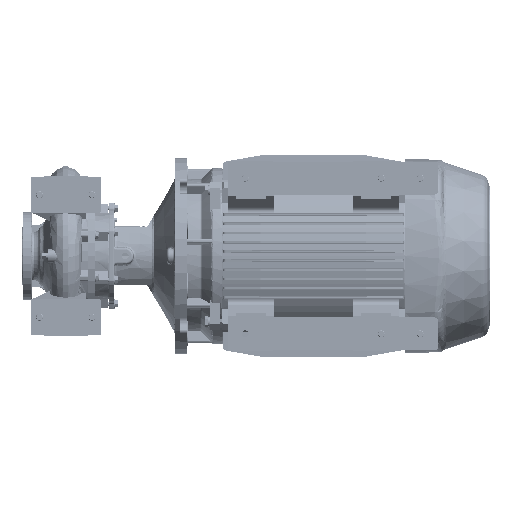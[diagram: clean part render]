
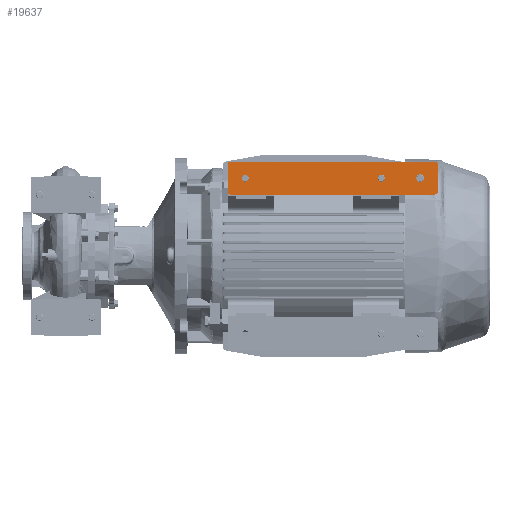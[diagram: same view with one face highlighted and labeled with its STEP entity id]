
A CAD part, front view. The second image highlights one B-rep face of the part: STEP entity #19637.
In plain terms, the highlighted planar face has unit normal (0, -1, 0).
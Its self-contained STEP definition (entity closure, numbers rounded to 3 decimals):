
#3975 = CIRCLE ( 'NONE', #145972, 9. ) ;
#4213 = ORIENTED_EDGE ( 'NONE', *, *, #53281, .T. ) ;
#6495 = VECTOR ( 'NONE', #37651, 1000. ) ;
#7911 = VERTEX_POINT ( 'NONE', #10172 ) ;
#8586 = DIRECTION ( 'NONE',  ( 0., 0., 1. ) ) ;
#10172 = CARTESIAN_POINT ( 'NONE',  ( 6., 0., -480. ) ) ;
#11128 = EDGE_CURVE ( 'NONE', #69789, #44557, #108596, .T. ) ;
#11324 = CIRCLE ( 'NONE', #60357, 8. ) ;
#14241 = EDGE_CURVE ( 'NONE', #31402, #44557, #106320, .T. ) ;
#16147 = DIRECTION ( 'NONE',  ( 0., 0., -1. ) ) ;
#19637 = ADVANCED_FACE ( 'NONE', ( #148967, #56281, #21001, #135219 ), #31752, .T. ) ;
#20850 = CARTESIAN_POINT ( 'NONE',  ( 69., 0., 0. ) ) ;
#20908 = DIRECTION ( 'NONE',  ( 0., 0., -1. ) ) ;
#21001 = FACE_BOUND ( 'NONE', #69754, .T. ) ;
#22472 = ORIENTED_EDGE ( 'NONE', *, *, #100503, .T. ) ;
#23020 = ORIENTED_EDGE ( 'NONE', *, *, #116547, .T. ) ;
#23586 = EDGE_LOOP ( 'NONE', ( #92209, #22472 ) ) ;
#25194 = ORIENTED_EDGE ( 'NONE', *, *, #79593, .F. ) ;
#29094 = AXIS2_PLACEMENT_3D ( 'NONE', #90654, #122830, #112844 ) ;
#29307 = DIRECTION ( 'NONE',  ( 0., 1., 0. ) ) ;
#29335 = VERTEX_POINT ( 'NONE', #81996 ) ;
#30813 = CARTESIAN_POINT ( 'NONE',  ( 37.5, 0., -40. ) ) ;
#31402 = VERTEX_POINT ( 'NONE', #83036 ) ;
#31752 = PLANE ( 'NONE',  #56194 ) ;
#32403 = ORIENTED_EDGE ( 'NONE', *, *, #100531, .T. ) ;
#34514 = VERTEX_POINT ( 'NONE', #131771 ) ;
#34543 = DIRECTION ( 'NONE',  ( 0., 0., -1. ) ) ;
#35839 = CARTESIAN_POINT ( 'NONE',  ( 0., 0., 0. ) ) ;
#36929 = CARTESIAN_POINT ( 'NONE',  ( 6., 0., 0. ) ) ;
#36934 = DIRECTION ( 'NONE',  ( 0., -1., 0. ) ) ;
#37031 = CARTESIAN_POINT ( 'NONE',  ( 0., 0., -474. ) ) ;
#37651 = DIRECTION ( 'NONE',  ( 1., 0., 0. ) ) ;
#39785 = EDGE_CURVE ( 'NONE', #45161, #46420, #141642, .T. ) ;
#40983 = EDGE_CURVE ( 'NONE', #134830, #116056, #43048, .T. ) ;
#41699 = VERTEX_POINT ( 'NONE', #107625 ) ;
#42569 = CARTESIAN_POINT ( 'NONE',  ( 37.5, 0., -449. ) ) ;
#43048 = CIRCLE ( 'NONE', #69927, 6. ) ;
#43095 = CARTESIAN_POINT ( 'NONE',  ( 37.5, 0., -440. ) ) ;
#43945 = DIRECTION ( 'NONE',  ( 0., 1., 0. ) ) ;
#44557 = VERTEX_POINT ( 'NONE', #20850 ) ;
#45161 = VERTEX_POINT ( 'NONE', #42569 ) ;
#46001 = CIRCLE ( 'NONE', #114576, 6. ) ;
#46420 = VERTEX_POINT ( 'NONE', #79909 ) ;
#51990 = VECTOR ( 'NONE', #131602, 1000. ) ;
#53281 = EDGE_CURVE ( 'NONE', #41699, #29335, #61147, .T. ) ;
#55350 = DIRECTION ( 'NONE',  ( 0., 0., -1. ) ) ;
#56153 = VECTOR ( 'NONE', #8586, 1000. ) ;
#56194 = AXIS2_PLACEMENT_3D ( 'NONE', #65491, #90765, #67771 ) ;
#56281 = FACE_BOUND ( 'NONE', #73041, .T. ) ;
#58201 = DIRECTION ( 'NONE',  ( 0., -1., 0. ) ) ;
#59167 = CARTESIAN_POINT ( 'NONE',  ( 69., 0., -474. ) ) ;
#59790 = DIRECTION ( 'NONE',  ( 0., 0., -1. ) ) ;
#60127 = VECTOR ( 'NONE', #138136, 1000. ) ;
#60249 = ORIENTED_EDGE ( 'NONE', *, *, #107794, .T. ) ;
#60357 = AXIS2_PLACEMENT_3D ( 'NONE', #30813, #29307, #122775 ) ;
#61147 = CIRCLE ( 'NONE', #100301, 8. ) ;
#62919 = DIRECTION ( 'NONE',  ( 0., 1., 0. ) ) ;
#63376 = DIRECTION ( 'NONE',  ( 0., -1., 0. ) ) ;
#65491 = CARTESIAN_POINT ( 'NONE',  ( 0., 0., -480. ) ) ;
#67771 = DIRECTION ( 'NONE',  ( 0., 0., -1. ) ) ;
#68330 = ORIENTED_EDGE ( 'NONE', *, *, #83666, .T. ) ;
#69754 = EDGE_LOOP ( 'NONE', ( #32403, #108354 ) ) ;
#69789 = VERTEX_POINT ( 'NONE', #36929 ) ;
#69927 = AXIS2_PLACEMENT_3D ( 'NONE', #59167, #36934, #105893 ) ;
#70555 = CARTESIAN_POINT ( 'NONE',  ( 37.5, 0., -40. ) ) ;
#71136 = EDGE_CURVE ( 'NONE', #116056, #31402, #78363, .T. ) ;
#73041 = EDGE_LOOP ( 'NONE', ( #131499, #4213 ) ) ;
#73663 = LINE ( 'NONE', #75166, #6495 ) ;
#75166 = CARTESIAN_POINT ( 'NONE',  ( 0., 0., -480. ) ) ;
#78363 = LINE ( 'NONE', #138824, #56153 ) ;
#79448 = AXIS2_PLACEMENT_3D ( 'NONE', #118769, #117255, #59790 ) ;
#79593 = EDGE_CURVE ( 'NONE', #106262, #34514, #124398, .T. ) ;
#79909 = CARTESIAN_POINT ( 'NONE',  ( 37.5, 0., -431. ) ) ;
#79929 = CARTESIAN_POINT ( 'NONE',  ( 0., 0., -480. ) ) ;
#80327 = CIRCLE ( 'NONE', #134138, 8. ) ;
#81996 = CARTESIAN_POINT ( 'NONE',  ( 37.5, 0., -343. ) ) ;
#83036 = CARTESIAN_POINT ( 'NONE',  ( 75., 0., -6. ) ) ;
#83666 = EDGE_CURVE ( 'NONE', #7911, #134830, #73663, .T. ) ;
#86348 = DIRECTION ( 'NONE',  ( 0., 0., -1. ) ) ;
#90654 = CARTESIAN_POINT ( 'NONE',  ( 37.5, 0., -440. ) ) ;
#90765 = DIRECTION ( 'NONE',  ( 0., -1., 0. ) ) ;
#91345 = EDGE_LOOP ( 'NONE', ( #138321, #60249, #25194, #23020, #68330, #145542, #94672, #106877 ) ) ;
#92068 = DIRECTION ( 'NONE',  ( 0., 1., 0. ) ) ;
#92209 = ORIENTED_EDGE ( 'NONE', *, *, #145005, .T. ) ;
#92642 = CARTESIAN_POINT ( 'NONE',  ( 75., 0., -474. ) ) ;
#94672 = ORIENTED_EDGE ( 'NONE', *, *, #71136, .T. ) ;
#95009 = EDGE_CURVE ( 'NONE', #29335, #41699, #111101, .T. ) ;
#100301 = AXIS2_PLACEMENT_3D ( 'NONE', #113633, #43945, #20908 ) ;
#100503 = EDGE_CURVE ( 'NONE', #107691, #131066, #11324, .T. ) ;
#100531 = EDGE_CURVE ( 'NONE', #46420, #45161, #3975, .T. ) ;
#101292 = AXIS2_PLACEMENT_3D ( 'NONE', #123411, #62919, #16147 ) ;
#103605 = AXIS2_PLACEMENT_3D ( 'NONE', #146846, #63376, #86348 ) ;
#104941 = DIRECTION ( 'NONE',  ( 0., 0., -1. ) ) ;
#105893 = DIRECTION ( 'NONE',  ( 0., 0., -1. ) ) ;
#106262 = VERTEX_POINT ( 'NONE', #37031 ) ;
#106320 = CIRCLE ( 'NONE', #79448, 6. ) ;
#106419 = CARTESIAN_POINT ( 'NONE',  ( 37.5, 0., -48. ) ) ;
#106844 = CARTESIAN_POINT ( 'NONE',  ( 69., 0., -480. ) ) ;
#106877 = ORIENTED_EDGE ( 'NONE', *, *, #14241, .T. ) ;
#107625 = CARTESIAN_POINT ( 'NONE',  ( 37.5, 0., -359. ) ) ;
#107691 = VERTEX_POINT ( 'NONE', #106419 ) ;
#107794 = EDGE_CURVE ( 'NONE', #69789, #34514, #46001, .T. ) ;
#108354 = ORIENTED_EDGE ( 'NONE', *, *, #39785, .T. ) ;
#108596 = LINE ( 'NONE', #35839, #51990 ) ;
#111101 = CIRCLE ( 'NONE', #101292, 8. ) ;
#112844 = DIRECTION ( 'NONE',  ( 0., 0., -1. ) ) ;
#113633 = CARTESIAN_POINT ( 'NONE',  ( 37.5, 0., -351. ) ) ;
#114318 = DIRECTION ( 'NONE',  ( 0., 1., 0. ) ) ;
#114576 = AXIS2_PLACEMENT_3D ( 'NONE', #142421, #58201, #104941 ) ;
#116056 = VERTEX_POINT ( 'NONE', #92642 ) ;
#116547 = EDGE_CURVE ( 'NONE', #106262, #7911, #125595, .T. ) ;
#117255 = DIRECTION ( 'NONE',  ( 0., -1., 0. ) ) ;
#118769 = CARTESIAN_POINT ( 'NONE',  ( 69., 0., -6. ) ) ;
#121942 = CARTESIAN_POINT ( 'NONE',  ( 37.5, 0., -32. ) ) ;
#122775 = DIRECTION ( 'NONE',  ( 0., 0., -1. ) ) ;
#122830 = DIRECTION ( 'NONE',  ( 0., 1., 0. ) ) ;
#123411 = CARTESIAN_POINT ( 'NONE',  ( 37.5, 0., -351. ) ) ;
#124398 = LINE ( 'NONE', #79929, #60127 ) ;
#125595 = CIRCLE ( 'NONE', #103605, 6. ) ;
#131066 = VERTEX_POINT ( 'NONE', #121942 ) ;
#131499 = ORIENTED_EDGE ( 'NONE', *, *, #95009, .T. ) ;
#131602 = DIRECTION ( 'NONE',  ( 1., 0., 0. ) ) ;
#131771 = CARTESIAN_POINT ( 'NONE',  ( 0., 0., -6. ) ) ;
#134138 = AXIS2_PLACEMENT_3D ( 'NONE', #70555, #92068, #34543 ) ;
#134830 = VERTEX_POINT ( 'NONE', #106844 ) ;
#135219 = FACE_OUTER_BOUND ( 'NONE', #91345, .T. ) ;
#138136 = DIRECTION ( 'NONE',  ( 0., 0., 1. ) ) ;
#138321 = ORIENTED_EDGE ( 'NONE', *, *, #11128, .F. ) ;
#138824 = CARTESIAN_POINT ( 'NONE',  ( 75., 0., -480. ) ) ;
#141642 = CIRCLE ( 'NONE', #29094, 9. ) ;
#142421 = CARTESIAN_POINT ( 'NONE',  ( 6., 0., -6. ) ) ;
#145005 = EDGE_CURVE ( 'NONE', #131066, #107691, #80327, .T. ) ;
#145542 = ORIENTED_EDGE ( 'NONE', *, *, #40983, .T. ) ;
#145972 = AXIS2_PLACEMENT_3D ( 'NONE', #43095, #114318, #55350 ) ;
#146846 = CARTESIAN_POINT ( 'NONE',  ( 6., 0., -474. ) ) ;
#148967 = FACE_BOUND ( 'NONE', #23586, .T. ) ;
